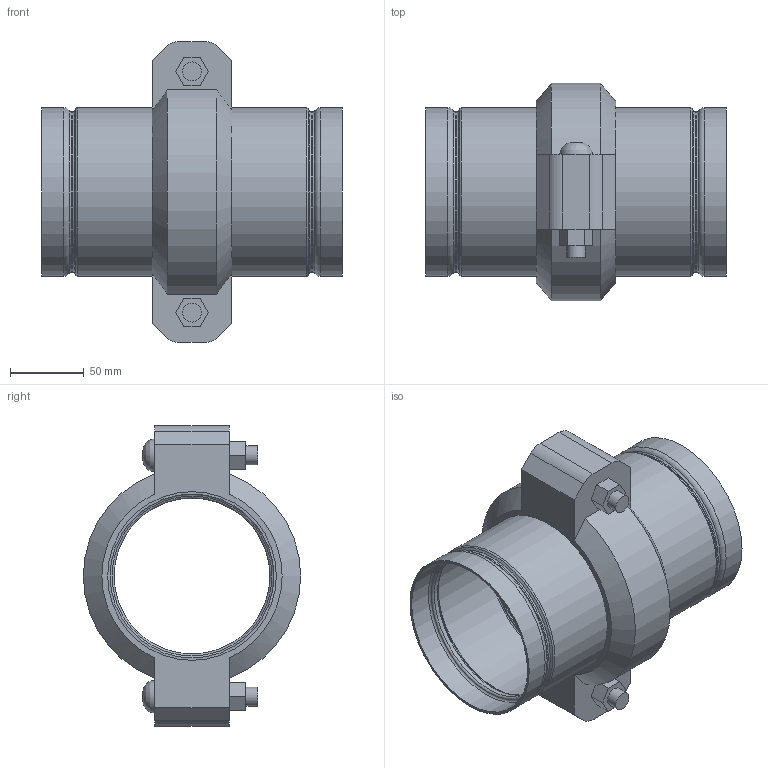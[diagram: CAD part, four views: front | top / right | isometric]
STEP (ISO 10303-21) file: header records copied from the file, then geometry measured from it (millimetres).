
FILE_DESCRIPTION(/* description */ ('VIC STRENGTHIN 100 EXPANSION JOINT 1 COUPLING COMPRESSED STYLE E155 (ST1)','CAx-IF Rec.Pracs.---Representation and Presentation of Product Manufacturing Information (PMI)---4.0---2014-10-13'),/* implementation_level */ '2;1');
FILE_NAME(/* name */ 'C:\Users\Vjadhav\AppData\Roaming\Autodesk\ApplicationPlugins\Victaulic.Temp\A42\Victaulic_SS-StrengThin 100_Expansion Joint_Compressed_1 Coupling_Style E155 (ST1)_4 (100).stp',/* time_stamp */ '2021-07-23T12:24:16+06:00',/* author */ ('kkamble'),/* organization */ ('Victaulic'),/* preprocessor_version */ 'ST-DEVELOPER v17.2',/* originating_system */ 'Autodesk Inventor 2019',/* authorisation */ '');
FILE_SCHEMA (('AP242_MANAGED_MODEL_BASED_3D_ENGINEERING_MIM_LF { 1 0 10303 442 1 1 4 }'));
Length unit declared in the file: inch
Products named in the file (3): E155-04.0; E494G-04.0; 075-04.0
Assembly tree (3 placements, depth 2):
  E155-04.0
    E494G-04.0  x2
    075-04.0
Bounding box: 203.96 x 147.32 x 203.96 mm (x, y, z)
Volume: 601527.9 mm3; surface area: 228381.4 mm2
Topology: 3 solids, 5 shells, 121 faces, 349 edges, 252 vertices
Faces by surface type: plane 46, cylinder 33, torus 32, cone 8, bspline 2
Full cylindrical faces by diameter (mm): 12.7 x4, 14.605 x2, 105.639 x2, 106.883 x2, 108.839 x2, 110.084 x2, 111.1 x6, 114.3 x7
Entity records: 3147 total; most frequent: CARTESIAN_POINT 568, DIRECTION 551, ORIENTED_EDGE 476, EDGE_CURVE 238, AXIS2_PLACEMENT_3D 230, VERTEX_POINT 169, CIRCLE 139, EDGE_LOOP 105
